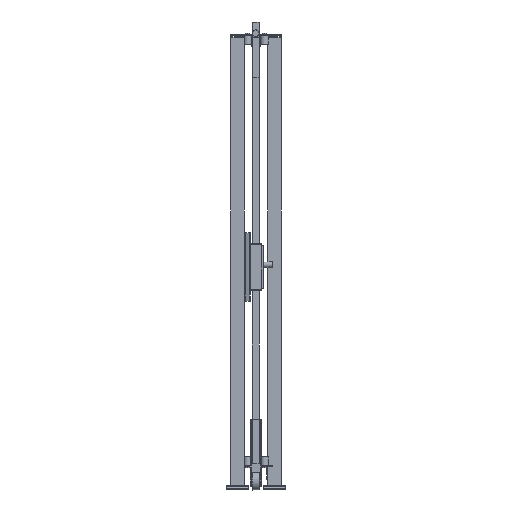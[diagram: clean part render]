
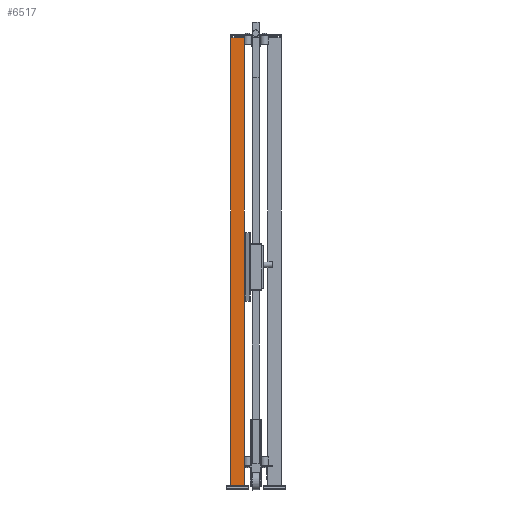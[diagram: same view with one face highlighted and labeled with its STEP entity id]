
A CAD part, left-side view. The second image highlights one B-rep face of the part: STEP entity #6517.
In plain terms, the highlighted planar face has unit normal (-1, 0, 0) as drawn and (0, 1, 0) by its records, which use the part's own axes.
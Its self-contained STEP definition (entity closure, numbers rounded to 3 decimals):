
#633=FACE_OUTER_BOUND('',#1159,.T.);
#1159=EDGE_LOOP('',(#4135,#4136,#4137,#4138));
#1763=VERTEX_POINT('',#14491);
#1764=VERTEX_POINT('',#14493);
#1766=VERTEX_POINT('',#14499);
#1769=VERTEX_POINT('',#14504);
#2653=EDGE_CURVE('',#1763,#1764,#7863,.T.);
#2659=EDGE_CURVE('',#1769,#1766,#7869,.T.);
#2662=EDGE_CURVE('',#1764,#1769,#7872,.T.);
#2663=EDGE_CURVE('',#1763,#1766,#7873,.T.);
#4135=ORIENTED_EDGE('',*,*,#2663,.T.);
#4136=ORIENTED_EDGE('',*,*,#2659,.F.);
#4137=ORIENTED_EDGE('',*,*,#2662,.F.);
#4138=ORIENTED_EDGE('',*,*,#2653,.F.);
#6061=PLANE('',#9992);
#6517=ADVANCED_FACE('',(#633),#6061,.F.);
#7863=LINE('',#14494,#9065);
#7869=LINE('',#14506,#9071);
#7872=LINE('',#14511,#9074);
#7873=LINE('',#14513,#9075);
#9065=VECTOR('',#11325,1.);
#9071=VECTOR('',#11333,1.);
#9074=VECTOR('',#11340,1.);
#9075=VECTOR('',#11343,1.);
#9992=AXIS2_PLACEMENT_3D('',#14512,#11341,#11342);
#11325=DIRECTION('',(-1.,0.,0.));
#11333=DIRECTION('',(1.,0.,0.));
#11340=DIRECTION('',(0.,0.,-1.));
#11341=DIRECTION('center_axis',(0.,-1.,0.));
#11342=DIRECTION('ref_axis',(0.,0.,-1.));
#11343=DIRECTION('',(0.,0.,-1.));
#14491=CARTESIAN_POINT('',(30.,30.,2020.));
#14493=CARTESIAN_POINT('',(-30.,30.,2020.));
#14494=CARTESIAN_POINT('',(0.,30.,2020.));
#14499=CARTESIAN_POINT('',(30.,30.,20.));
#14504=CARTESIAN_POINT('',(-30.,30.,20.));
#14506=CARTESIAN_POINT('',(0.,30.,20.));
#14511=CARTESIAN_POINT('',(-30.,30.,1020.));
#14512=CARTESIAN_POINT('Origin',(0.,30.,
1020.));
#14513=CARTESIAN_POINT('',(30.,30.,1020.));
